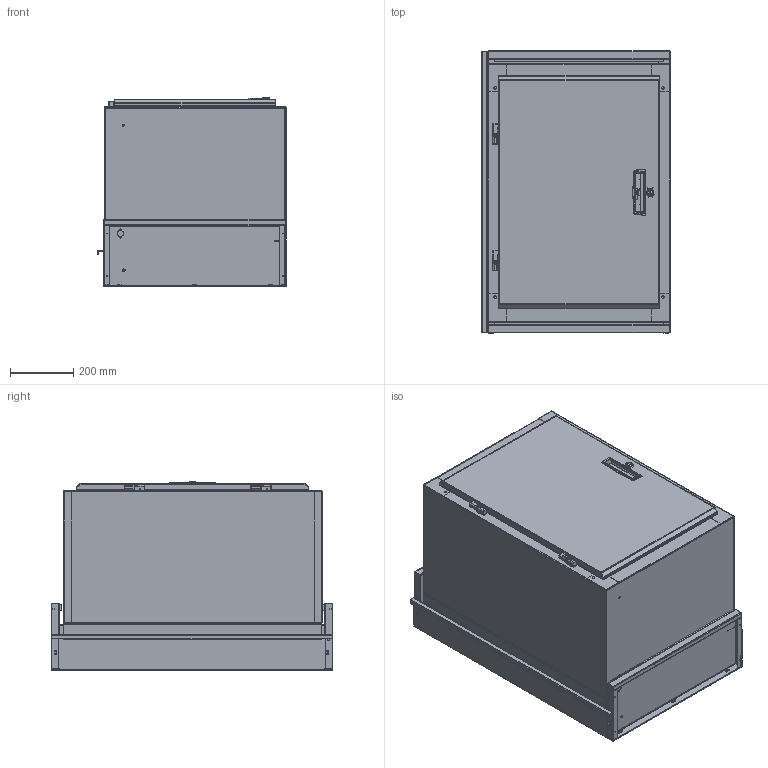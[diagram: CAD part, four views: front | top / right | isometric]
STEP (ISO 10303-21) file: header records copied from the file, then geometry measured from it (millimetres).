
FILE_DESCRIPTION((''),'2;1');
FILE_NAME('AEWR-16-22SD_ASM','2018-01-18T',('timothy.pessolano'),('Middle Atlantic Products'),'PRO/ENGINEER BY PARAMETRIC TECHNOLOGY CORPORATION, 2014310','PRO/ENGINEER BY PARAMETRIC TECHNOLOGY CORPORATION, 2014310','');
FILE_SCHEMA(('CONFIG_CONTROL_DESIGN'));
Length unit declared in the file: inch
Products named in the file (28): BEWRBP16; BEWRBPT; BEWRBPB; 500-00032; BEWRBPB_ASM; PEWRBP16_ASM; DSRWS; AEWR-16-XXBP_ASM; BEWRCSB221; BEWR1622SR1; BEWRCST221; BEWR1622SL1; 80-026; PEWR1622CS_ASM; CIBRRF16EMCOR; PDWRTR16; AEWR-16-22CS_ASM; 500-00020; 500-00021; PFD16A1; 500-00769; 500-00069; LOCKCLIP; 500-00339; FELTDOT; 91-068; AFD-16_ASM; AEWR-16-22SD_ASM
Assembly tree (33 placements, depth 5):
  AEWR-16-22SD_ASM
    AEWR-16-XXBP_ASM
      PEWRBP16_ASM
        BEWRBP16
        BEWRBPT
        BEWRBPB_ASM
          BEWRBPB
          500-00032
      DSRWS  x2
    AEWR-16-22CS_ASM
      PEWR1622CS_ASM
        BEWRCSB221
        BEWR1622SR1
        BEWRCST221
        BEWR1622SL1
        80-026  x2
      CIBRRF16EMCOR  x2
      PDWRTR16
    500-00020  x2
    500-00021  x2
    AFD-16_ASM
      PFD16A1
      500-00769
      500-00069
      LOCKCLIP
      500-00339
      FELTDOT  x2
      91-068
Bounding box: 594.41 x 889.13 x 595.17 mm (x, y, z)
Volume: 4648368.9 mm3; surface area: 6537262.5 mm2
Topology: 45 solids, 55 shells, 2710 faces, 6830 edges, 4226 vertices
Faces by surface type: plane 1518, cylinder 895, bspline 98, cone 95, torus 82, sphere 22
Entity records: 77131 total; most frequent: CARTESIAN_POINT 18003, ORIENTED_EDGE 12144, DIRECTION 12138, EDGE_CURVE 6090, VECTOR 4150, LINE 4150, AXIS2_PLACEMENT_3D 3994, VERTEX_POINT 3772
